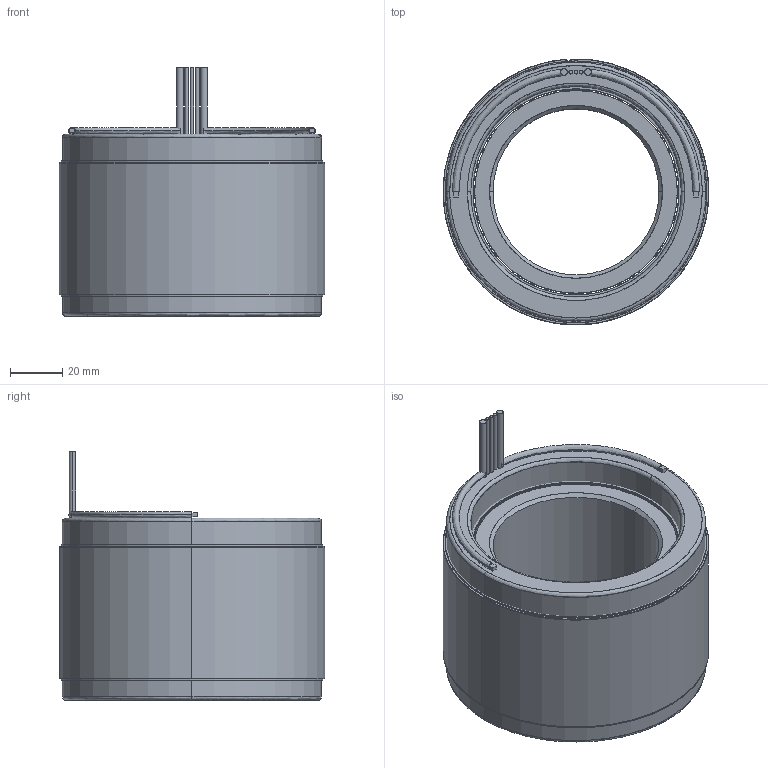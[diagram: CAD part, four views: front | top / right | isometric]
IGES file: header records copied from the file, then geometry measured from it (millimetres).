
Start section: SolidWorks IGES file using analytic representation for surfaces
Global section: file name: \\fs01.aveox.local\user documents\eng\My Documents\STANDARD STATOR ROTOR SETS\NEW DIRECT DRIVE MOTOR\4 OD 27S24P\6100339-05.IGS; native system: SolidWorks 2016; preprocessor: SolidWorks 2016; author: eng; date: 191023.141823; units: millimetre
Bounding box: 101.6 x 101.57 x 95 mm (x, y, z)
Surface area: 131875.6 mm2 (no closed solid volume)
Topology: 0 solids, 0 shells, 109 faces, 2502 edges, 2502 vertices
Faces by surface type: bspline 56, revolution 53
